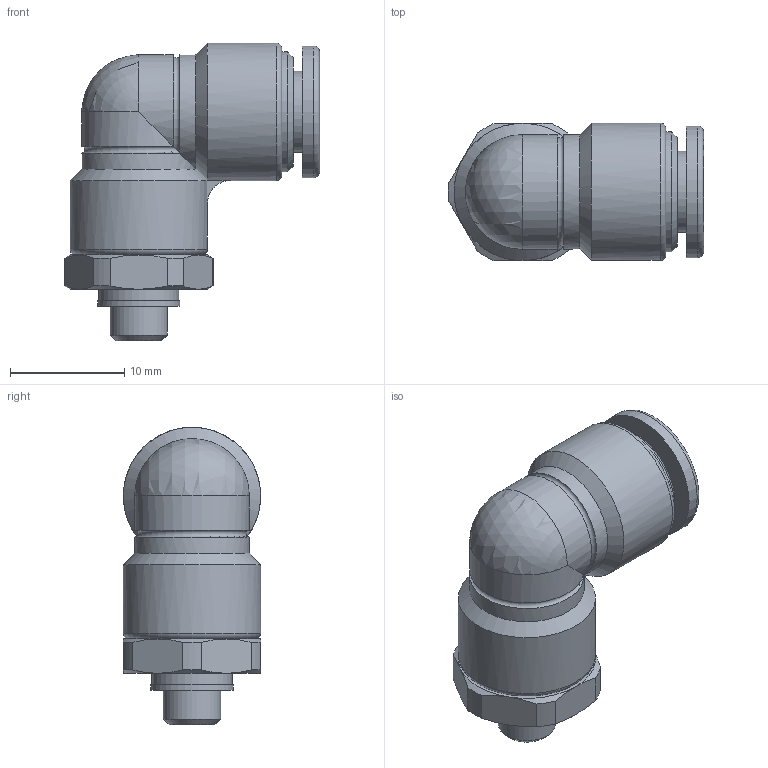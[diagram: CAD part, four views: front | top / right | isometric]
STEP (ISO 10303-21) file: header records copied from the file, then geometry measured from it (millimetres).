
FILE_DESCRIPTION(/* description */ (''),/* implementation_level */ '2;1');
FILE_NAME(/* name */ 'E:\2013年度版　3D-DATA\【02】 TOUCH CONNECTOR FIVE SUS\[02] MALE ELBOW\[04] FS6-M5ML FS6-M5MLW.stp',/* time_stamp */ '2013-08-06T16:50:20+09:00',/* author */ ('takahashi-pc2'),/* organization */ (''),/* preprocessor_version */ 'ST-DEVELOPER v15.2',/* originating_system */ 'Autodesk Inventor 2014',/* authorisation */ '');
FILE_SCHEMA (('AUTOMOTIVE_DESIGN { 1 0 10303 214 3 1 1 }'));
Length unit declared in the file: millimetre
Products named in the file (1): [04] FS6-M5ML FS6-M5MLW
Bounding box: 22.29 x 12 x 26 mm (x, y, z)
Volume: 2798 mm3; surface area: 1799.7 mm2
Topology: 1 solids, 1 shells, 64 faces, 141 edges, 85 vertices
Faces by surface type: plane 22, cylinder 20, cone 16, torus 5, sphere 1
Full cylindrical faces by diameter (mm): 5 x1, 6 x1, 7 x1, 7.1 x1, 7.2 x1, 10.5 x1, 11.5 x1, 12 x2
Entity records: 1707 total; most frequent: CARTESIAN_POINT 379, DIRECTION 288, ORIENTED_EDGE 250, AXIS2_PLACEMENT_3D 130, EDGE_CURVE 125, EDGE_LOOP 86, VERTEX_POINT 85, ADVANCED_FACE 64
